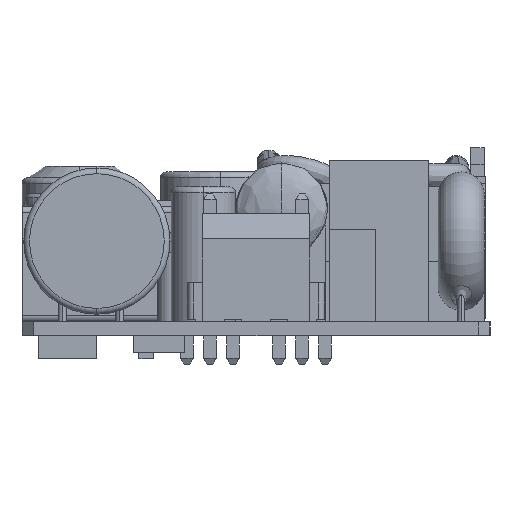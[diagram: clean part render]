
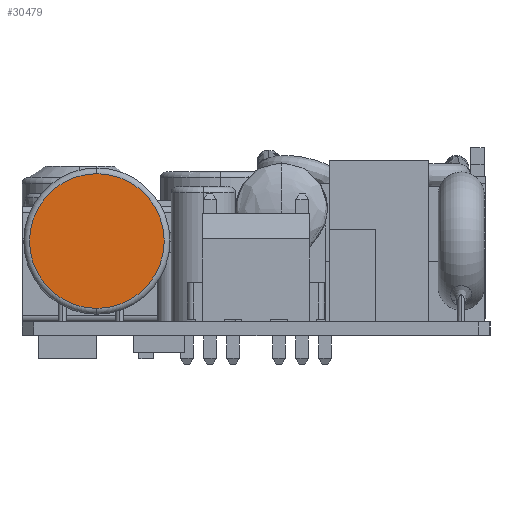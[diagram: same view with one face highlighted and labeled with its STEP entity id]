
A CAD part, left-side view. The second image highlights one B-rep face of the part: STEP entity #30479.
In plain terms, the highlighted planar face has unit normal (-1, 0, 0).
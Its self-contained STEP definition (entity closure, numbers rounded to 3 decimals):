
#24896 = CARTESIAN_POINT ( 'NONE',  ( 51.3, 95.1, 14.05 ) ) ;
#24897 = DIRECTION ( 'NONE',  ( 0., 0., 1. ) ) ;
#24898 = DIRECTION ( 'NONE',  ( -1., 0., 0. ) ) ;
#24899 = CARTESIAN_POINT ( 'NONE',  ( 51.3, 95.1, 8.2 ) ) ;
#24900 = AXIS2_PLACEMENT_3D ( 'NONE', #24899, #24898, #24897 ) ;
#24901 = CIRCLE ( 'NONE', #24900, 5.85 ) ;
#24902 = CARTESIAN_POINT ( 'NONE',  ( 51.3, 95.1, 2.35 ) ) ;
#28664 = VERTEX_POINT ( 'NONE', #24902 ) ;
#28666 = EDGE_CURVE ( 'NONE', #28667, #28664, #24901, .T. ) ;
#28667 = VERTEX_POINT ( 'NONE', #24896 ) ;
#30359 = DIRECTION ( 'NONE',  ( 0., 0., 1. ) ) ;
#30360 = DIRECTION ( 'NONE',  ( -1., 0., 0. ) ) ;
#30362 = AXIS2_PLACEMENT_3D ( 'NONE', #30376, #30360, #30359 ) ;
#30364 = CIRCLE ( 'NONE', #30362, 5.85 ) ;
#30372 = DIRECTION ( 'NONE',  ( 0., 0., 1. ) ) ;
#30373 = DIRECTION ( 'NONE',  ( -1., 0., 0. ) ) ;
#30375 = AXIS2_PLACEMENT_3D ( 'NONE', #30381, #30373, #30372 ) ;
#30376 = CARTESIAN_POINT ( 'NONE',  ( 51.3, 95.1, 8.2 ) ) ;
#30381 = CARTESIAN_POINT ( 'NONE',  ( 51.3, 95.1, 8.2 ) ) ;
#30383 = PLANE ( 'NONE',  #30375 ) ;
#30392 = FACE_OUTER_BOUND ( 'NONE', #30482, .T. ) ;
#30479 = ADVANCED_FACE ( 'NONE', ( #30392 ), #30383, .T. ) ;
#30482 = EDGE_LOOP ( 'NONE', ( #30484, #30486 ) ) ;
#30484 = ORIENTED_EDGE ( 'NONE', *, *, #28666, .T. ) ;
#30486 = ORIENTED_EDGE ( 'NONE', *, *, #30490, .T. ) ;
#30490 = EDGE_CURVE ( 'NONE', #28664, #28667, #30364, .T. ) ;
